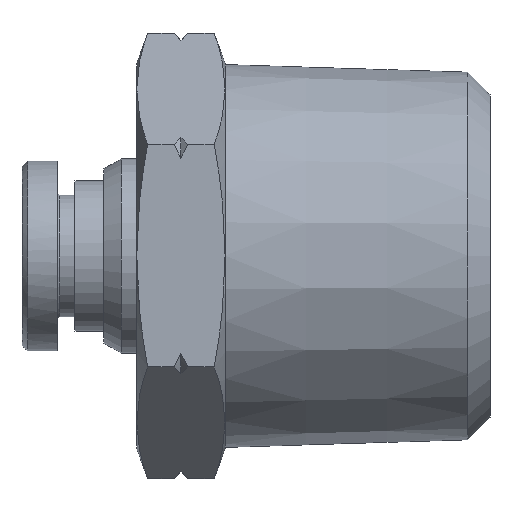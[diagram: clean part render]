
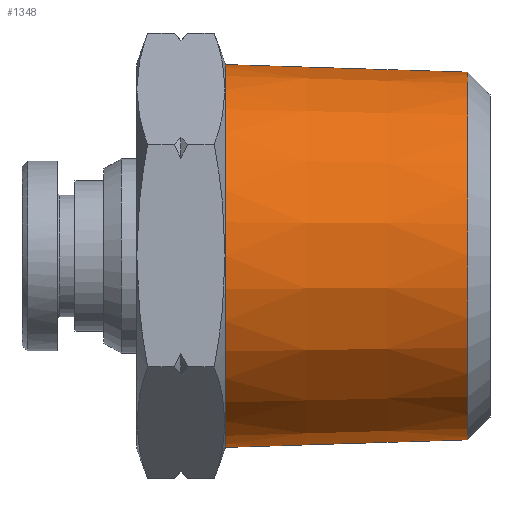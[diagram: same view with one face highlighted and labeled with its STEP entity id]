
A CAD part, top view. The second image highlights one B-rep face of the part: STEP entity #1348.
In plain terms, the highlighted conical face has half-angle 1.79 degrees and reference radius 8.483 mm.
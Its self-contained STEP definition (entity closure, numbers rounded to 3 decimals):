
#1286=CARTESIAN_POINT('',(16.5,8.327,0.));
#1287=VERTEX_POINT('',#1286);
#1288=CARTESIAN_POINT('',(16.5,0.0,0.));
#1289=DIRECTION('',(1.0,0.0,0.0));
#1290=DIRECTION('',(0.0,-1.0,0.0));
#1291=AXIS2_PLACEMENT_3D('',#1288,#1289,#1290);
#1292=CIRCLE('',#1291,8.327);
#1293=EDGE_CURVE('',#1287,#1287,#1292,.T.);
#1329=CARTESIAN_POINT('',(11.5,0.0,0.0));
#1330=DIRECTION('',(-1.0,0.0,0.0));
#1331=DIRECTION('',(0.0,1.0,0.0));
#1332=AXIS2_PLACEMENT_3D('',#1329,#1330,#1331);
#1333=CONICAL_SURFACE('',#1332,8.483,1.79);
#1334=CARTESIAN_POINT('',(5.5,8.671,0.0));
#1335=VERTEX_POINT('',#1334);
#1336=CARTESIAN_POINT('',(5.5,0.0,0.0));
#1337=DIRECTION('',(1.0,0.0,0.0));
#1338=DIRECTION('',(0.0,1.0,0.0));
#1339=AXIS2_PLACEMENT_3D('',#1336,#1337,#1338);
#1340=CIRCLE('',#1339,8.671);
#1341=EDGE_CURVE('',#1335,#1335,#1340,.T.);
#1342=ORIENTED_EDGE('',*,*,#1341,.T.);
#1343=EDGE_LOOP('',(#1342));
#1344=FACE_OUTER_BOUND('',#1343,.T.);
#1345=ORIENTED_EDGE('',*,*,#1293,.F.);
#1346=EDGE_LOOP('',(#1345));
#1347=FACE_BOUND('',#1346,.T.);
#1348=ADVANCED_FACE('',(#1344,#1347),#1333,.T.);
